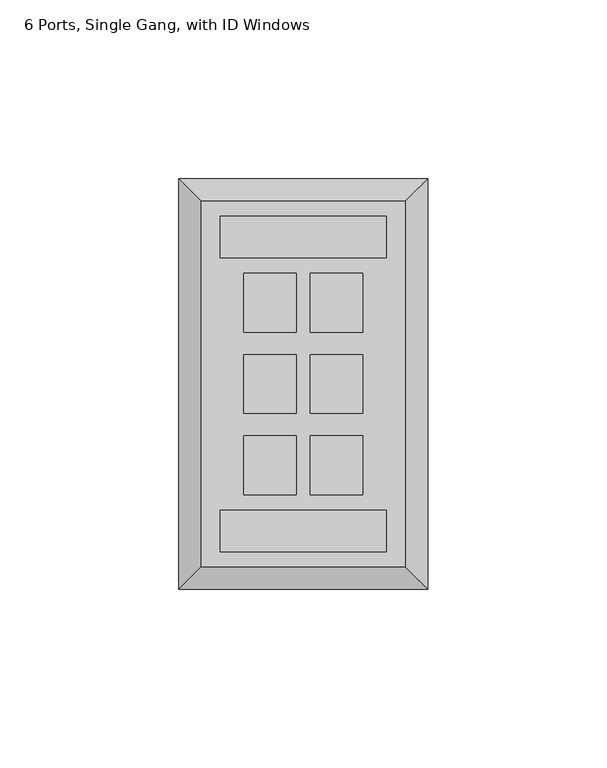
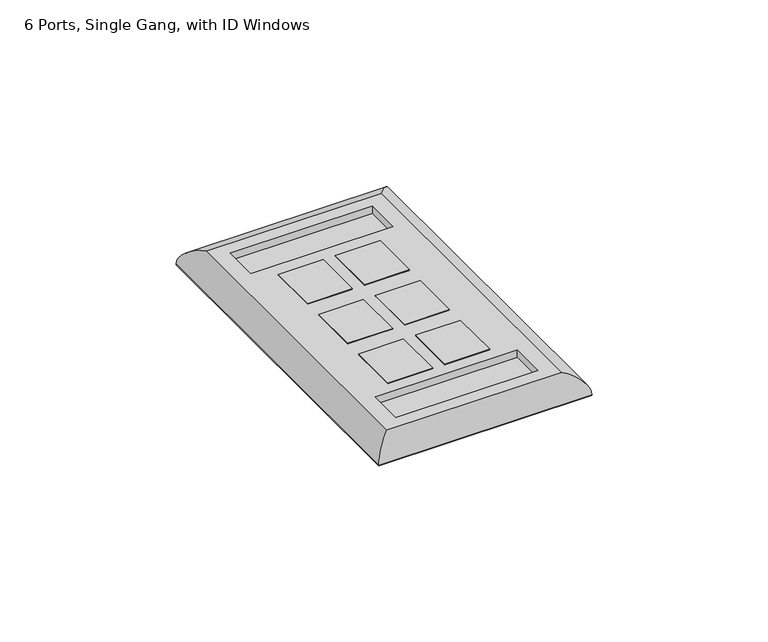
"""IFC4 building model written with IfcOpenShell, lengths in millimetres: electric appliance geometry, Data_Device-Work_Area-Leviton-QuickPort-Wallplate : 6 Ports, Single Gang, with ID Windows."""

from ifc_helpers import new_model, si_unit, frame, origin, origin_with_axes, place, context, project, spatial, polyline, ellipse_curve, outline, extrude, source, transform, mapped, element, save
from ifc_brep_helpers import plane_surface, cylinder_surface, advanced_brep


def electric_appliance_6_ports_single_gang_with_id_windows_9878a6a8(model_context):
    return source(origin(), model_context, "Body", "SolidModel", [
        extrude(outline(polyline([(-24.9936, 16.4465), (-24.9936, -0.0635), (-39.7256, -0.0635), (-39.7256, 16.4465), (-24.9936, 16.4465)])), origin_with_axes(), (0.0, 0.0, 1.0), 6.35),
        extrude(outline(polyline([(-24.9936, 39.1795), (-24.9936, 22.6695), (-39.7256, 22.6695), (-39.7256, 39.1795), (-24.9936, 39.1795)])), origin_with_axes(), (0.0, 0.0, 1.0), 6.35),
        extrude(outline(polyline([(-24.9936, -6.2865), (-24.9936, -22.7965), (-39.7256, -22.7965), (-39.7256, -6.2865), (-24.9936, -6.2865)])), origin_with_axes(), (0.0, 0.0, 1.0), 6.35),
        extrude(outline(polyline([(-6.3246, 16.4465), (-6.3246, -0.0635), (-21.0566, -0.0635), (-21.0566, 16.4465), (-6.3246, 16.4465)])), origin_with_axes(), (0.0, 0.0, 1.0), 6.35),
        extrude(outline(polyline([(-6.3246, 39.1795), (-6.3246, 22.6695), (-21.0566, 22.6695), (-21.0566, 39.1795), (-6.3246, 39.1795)])), origin_with_axes(), (0.0, 0.0, 1.0), 6.35),
        extrude(outline(polyline([(-6.3246, -6.2865), (-6.3246, -22.7965), (-21.0566, -22.7965), (-21.0566, -6.2865), (-6.3246, -6.2865)])), origin_with_axes(), (0.0, 0.0, 1.0), 6.35),
        advanced_brep(
        [(5.5499, -42.9895, 6.35), (5.5499, 59.3725, 6.35), (-51.6001, 59.3725, 6.35), (-51.6001, -42.9895, 6.35), (-39.7256, 39.1795, 6.35), (-24.9936, 39.1795, 6.35), (-24.9936, 22.6695, 6.35), (-39.7256, 22.6695, 6.35), (-39.7256, 16.4465, 6.35), (-24.9936, 16.4465, 6.35), (-24.9936, -0.0635, 6.35), (-39.7256, -0.0635, 6.35), (-39.7256, -6.2865, 6.35), (-24.9936, -6.2865, 6.35), (-24.9936, -22.7965, 6.35), (-39.7256, -22.7965, 6.35), (-21.0566, 39.1795, 6.35), (-6.3246, 39.1795, 6.35), (-6.3246, 22.6695, 6.35), (-21.0566, 22.6695, 6.35), (-21.0566, 16.4465, 6.35), (-6.3246, 16.4465, 6.35), (-6.3246, -0.0635, 6.35), (-21.0566, -0.0635, 6.35), (-21.0566, -6.2865, 6.35), (-6.3246, -6.2865, 6.35), (-6.3246, -22.7965, 6.35), (-21.0566, -22.7965, 6.35), (-46.2661, 55.1815, 6.35), (0.2159, 55.1815, 6.35), (0.2159, 43.4975, 6.35), (-46.2661, 43.4975, 6.35), (0.2159, -27.1145, 6.35), (0.2159, -38.7985, 6.35), (-46.2661, -38.7985, 6.35), (-46.2661, -27.1145, 6.35), (11.8999, 65.7225, 0.0), (11.8999, -49.3395, 0.0), (-57.9501, -49.3395, 0.0), (-57.9501, 65.7225, 0.0), (-24.9936, 39.1795, 0.0), (-39.7256, 39.1795, 0.0), (-39.7256, 22.6695, 0.0), (-24.9936, 22.6695, 0.0), (-24.9936, 16.4465, 0.0), (-39.7256, 16.4465, 0.0), (-39.7256, -0.0635, 0.0), (-24.9936, -0.0635, 0.0), (-24.9936, -6.2865, 0.0), (-39.7256, -6.2865, 0.0), (-39.7256, -22.7965, 0.0), (-24.9936, -22.7965, 0.0), (-6.3246, 39.1795, 0.0), (-21.0566, 39.1795, 0.0), (-21.0566, 22.6695, 0.0), (-6.3246, 22.6695, 0.0), (-6.3246, 16.4465, 0.0), (-21.0566, 16.4465, 0.0), (-21.0566, -0.0635, 0.0), (-6.3246, -0.0635, 0.0), (-6.3246, -6.2865, 0.0), (-21.0566, -6.2865, 0.0), (-21.0566, -22.7965, 0.0), (-6.3246, -22.7965, 0.0), (-57.9501, 65.7225, 0.254), (11.8999, 65.7225, 0.254), (-57.9501, -49.3395, 0.254), (11.8999, -49.3395, 0.254), (0.2159, 55.1815, 3.81), (-46.2661, 55.1815, 3.81), (-46.2661, 43.4975, 3.81), (0.2159, 43.4975, 3.81), (0.2159, -38.7985, 3.81), (0.2159, -27.1145, 3.81), (-46.2661, -27.1145, 3.81), (-46.2661, -38.7985, 3.81)],
        [
            (0, 1),
            (1, 2),
            (2, 3),
            (3, 0),
            (4, 5),
            (5, 6),
            (6, 7),
            (7, 4),
            (8, 9),
            (9, 10),
            (10, 11),
            (11, 8),
            (12, 13),
            (13, 14),
            (14, 15),
            (15, 12),
            (16, 17),
            (17, 18),
            (18, 19),
            (19, 16),
            (20, 21),
            (21, 22),
            (22, 23),
            (23, 20),
            (24, 25),
            (25, 26),
            (26, 27),
            (27, 24),
            (28, 29),
            (29, 30),
            (30, 31),
            (31, 28),
            (32, 33),
            (33, 34),
            (34, 35),
            (35, 32),
            (36, 37),
            (37, 38),
            (38, 39),
            (39, 36),
            (40, 41),
            (41, 42),
            (42, 43),
            (43, 40),
            (44, 45),
            (45, 46),
            (46, 47),
            (47, 44),
            (48, 49),
            (49, 50),
            (50, 51),
            (51, 48),
            (52, 53),
            (53, 54),
            (54, 55),
            (55, 52),
            (56, 57),
            (57, 58),
            (58, 59),
            (59, 56),
            (60, 61),
            (61, 62),
            (62, 63),
            (63, 60),
            (39, 64),
            (64, 65),
            (65, 36),
            (38, 66),
            (66, 64),
            (37, 67),
            (67, 66),
            (65, 67),
            (4, 41),
            (40, 5),
            (7, 42),
            (6, 43),
            (8, 45),
            (44, 9),
            (11, 46),
            (10, 47),
            (12, 49),
            (48, 13),
            (15, 50),
            (14, 51),
            (16, 53),
            (52, 17),
            (19, 54),
            (18, 55),
            (20, 57),
            (56, 21),
            (23, 58),
            (22, 59),
            (24, 61),
            (60, 25),
            (27, 62),
            (26, 63),
            (68, 69),
            (69, 70),
            (70, 71),
            (71, 68),
            (72, 73),
            (73, 74),
            (74, 75),
            (75, 72),
            (68, 29),
            (28, 69),
            (31, 70),
            (30, 71),
            (72, 33),
            (32, 73),
            (35, 74),
            (34, 75),
            (0, 67, ellipse_curve(frame((5.5499, -42.9895, -0.0052917), z_axis=(0.7071067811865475, 0.7071067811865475, 0.0), x_axis=(0.7071067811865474, -0.7071067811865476, 0.0)), 8.9877397, 6.3552917)),
            (65, 1, ellipse_curve(frame((5.5499, 59.3725, -0.0052917), z_axis=(0.7071067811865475, -0.7071067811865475, 0.0), x_axis=(-0.7071067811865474, -0.7071067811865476, 0.0)), 8.9877397, 6.3552917)),
            (3, 66, ellipse_curve(frame((-51.6001, -42.9895, -0.0052917), z_axis=(0.7071067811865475, -0.7071067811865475, 0.0), x_axis=(-0.7071067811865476, -0.7071067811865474, 0.0)), 8.9877397, 6.3552917)),
            (2, 64, ellipse_curve(frame((-51.6001, 59.3725, -0.0052917), z_axis=(-0.7071067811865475, -0.7071067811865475, 0.0), x_axis=(-0.7071067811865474, 0.7071067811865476, 0.0)), 8.9877397, 6.3552917)),
        ],
        [
            plane_surface(frame((-57.9501, 65.7225, 6.35), z_axis=(0.0, 0.0, 1.0), x_axis=(-1.0, 0.0, 0.0))),
            plane_surface(frame((-57.9501, 65.7225, 0.0), z_axis=(0.0, 0.0, -1.0), x_axis=(1.0, 0.0, 0.0))),
            plane_surface(frame((11.8999, 65.7225, 6.35), z_axis=(0.0, 1.0, 0.0), x_axis=(0.0, 0.0, -1.0))),
            plane_surface(frame((-57.9501, 65.7225, 6.35), z_axis=(-1.0, 0.0, 0.0), x_axis=(0.0, 0.0, -1.0))),
            plane_surface(frame((-57.9501, -49.3395, 6.35), z_axis=(0.0, -1.0, 0.0), x_axis=(0.0, 0.0, -1.0))),
            plane_surface(frame((11.8999, -49.3395, 6.35), z_axis=(1.0, 0.0, 0.0), x_axis=(0.0, 0.0, -1.0))),
            plane_surface(frame((-24.9936, 39.1795, 6.35), z_axis=(0.0, -1.0, 0.0), x_axis=(0.0, 0.0, -1.0))),
            plane_surface(frame((-39.7256, 39.1795, 6.35), z_axis=(1.0, 0.0, 0.0), x_axis=(0.0, 0.0, -1.0))),
            plane_surface(frame((-39.7256, 22.6695, 6.35), z_axis=(0.0, 1.0, 0.0), x_axis=(0.0, 0.0, -1.0))),
            plane_surface(frame((-24.9936, 22.6695, 6.35), z_axis=(-1.0, 0.0, 0.0), x_axis=(0.0, 0.0, -1.0))),
            plane_surface(frame((-24.9936, 16.4465, 6.35), z_axis=(0.0, -1.0, 0.0), x_axis=(0.0, 0.0, -1.0))),
            plane_surface(frame((-39.7256, 16.4465, 6.35), z_axis=(1.0, 0.0, 0.0), x_axis=(0.0, 0.0, -1.0))),
            plane_surface(frame((-39.7256, -0.0635, 6.35), z_axis=(0.0, 1.0, 0.0), x_axis=(0.0, 0.0, -1.0))),
            plane_surface(frame((-24.9936, -0.0635, 6.35), z_axis=(-1.0, 0.0, 0.0), x_axis=(0.0, 0.0, -1.0))),
            plane_surface(frame((-24.9936, -6.2865, 6.35), z_axis=(0.0, -1.0, 0.0), x_axis=(0.0, 0.0, -1.0))),
            plane_surface(frame((-39.7256, -6.2865, 6.35), z_axis=(1.0, 0.0, 0.0), x_axis=(0.0, 0.0, -1.0))),
            plane_surface(frame((-39.7256, -22.7965, 6.35), z_axis=(0.0, 1.0, 0.0), x_axis=(0.0, 0.0, -1.0))),
            plane_surface(frame((-24.9936, -22.7965, 6.35), z_axis=(-1.0, 0.0, 0.0), x_axis=(0.0, 0.0, -1.0))),
            plane_surface(frame((-6.3246, 39.1795, 6.35), z_axis=(0.0, -1.0, 0.0), x_axis=(0.0, 0.0, -1.0))),
            plane_surface(frame((-21.0566, 39.1795, 6.35), z_axis=(1.0, 0.0, 0.0), x_axis=(0.0, 0.0, -1.0))),
            plane_surface(frame((-21.0566, 22.6695, 6.35), z_axis=(0.0, 1.0, 0.0), x_axis=(0.0, 0.0, -1.0))),
            plane_surface(frame((-6.3246, 22.6695, 6.35), z_axis=(-1.0, 0.0, 0.0), x_axis=(0.0, 0.0, -1.0))),
            plane_surface(frame((-6.3246, 16.4465, 6.35), z_axis=(0.0, -1.0, 0.0), x_axis=(0.0, 0.0, -1.0))),
            plane_surface(frame((-21.0566, 16.4465, 6.35), z_axis=(1.0, 0.0, 0.0), x_axis=(0.0, 0.0, -1.0))),
            plane_surface(frame((-21.0566, -0.0635, 6.35), z_axis=(0.0, 1.0, 0.0), x_axis=(0.0, 0.0, -1.0))),
            plane_surface(frame((-6.3246, -0.0635, 6.35), z_axis=(-1.0, 0.0, 0.0), x_axis=(0.0, 0.0, -1.0))),
            plane_surface(frame((-6.3246, -6.2865, 6.35), z_axis=(0.0, -1.0, 0.0), x_axis=(0.0, 0.0, -1.0))),
            plane_surface(frame((-21.0566, -6.2865, 6.35), z_axis=(1.0, 0.0, 0.0), x_axis=(0.0, 0.0, -1.0))),
            plane_surface(frame((-21.0566, -22.7965, 6.35), z_axis=(0.0, 1.0, 0.0), x_axis=(0.0, 0.0, -1.0))),
            plane_surface(frame((-6.3246, -22.7965, 6.35), z_axis=(-1.0, 0.0, 0.0), x_axis=(0.0, 0.0, -1.0))),
            plane_surface(frame((-46.2661, 55.1815, 3.81), z_axis=(0.0, 0.0, 1.0), x_axis=(1.0, 0.0, 0.0))),
            plane_surface(frame((0.2159, 55.1815, 6.35), z_axis=(0.0, -1.0, 0.0), x_axis=(0.0, 0.0, -1.0))),
            plane_surface(frame((-46.2661, 55.1815, 6.35), z_axis=(1.0, 0.0, 0.0), x_axis=(0.0, 0.0, -1.0))),
            plane_surface(frame((-46.2661, 43.4975, 6.35), z_axis=(0.0, 1.0, 0.0), x_axis=(0.0, 0.0, -1.0))),
            plane_surface(frame((0.2159, 43.4975, 6.35), z_axis=(-1.0, 0.0, 0.0), x_axis=(0.0, 0.0, -1.0))),
            plane_surface(frame((0.2159, -38.7985, 6.35), z_axis=(-1.0, 0.0, 0.0), x_axis=(0.0, 0.0, -1.0))),
            plane_surface(frame((0.2159, -27.1145, 6.35), z_axis=(0.0, -1.0, 0.0), x_axis=(0.0, 0.0, -1.0))),
            plane_surface(frame((-46.2661, -27.1145, 6.35), z_axis=(1.0, 0.0, 0.0), x_axis=(0.0, 0.0, -1.0))),
            plane_surface(frame((-46.2661, -38.7985, 6.35), z_axis=(0.0, 1.0, 0.0), x_axis=(0.0, 0.0, -1.0))),
            cylinder_surface(frame((5.5499, 65.7225, -0.0052917), z_axis=(0.0, -1.0, 0.0), x_axis=(1.0, 0.0, 0.0)), 6.3552917),
            cylinder_surface(frame((11.8999, -42.9895, -0.0052917), z_axis=(-1.0, 0.0, 0.0), x_axis=(0.0, -1.0, 0.0)), 6.3552917),
            cylinder_surface(frame((-51.6001, -49.3395, -0.0052917), z_axis=(0.0, 1.0, 0.0), x_axis=(-1.0, 0.0, 0.0)), 6.3552917),
            cylinder_surface(frame((-57.9501, 59.3725, -0.0052917), z_axis=(1.0, 0.0, 0.0), x_axis=(0.0, 1.0, 0.0)), 6.3552917),
        ],
        [
            (0, [[1, 2, 3, 4], [5, 6, 7, 8], [9, 10, 11, 12], [13, 14, 15, 16], [17, 18, 19, 20], [21, 22, 23, 24], [25, 26, 27, 28], [29, 30, 31, 32], [33, 34, 35, 36]]),
            (1, [[37, 38, 39, 40], [41, 42, 43, 44], [45, 46, 47, 48], [49, 50, 51, 52], [53, 54, 55, 56], [57, 58, 59, 60], [61, 62, 63, 64]]),
            (2, [[-40, 65, 66, 67]]),
            (3, [[-39, 68, 69, -65]]),
            (4, [[-38, 70, 71, -68]]),
            (5, [[-37, -67, 72, -70]]),
            (6, [[73, -41, 74, -5]]),
            (7, [[-73, -8, 75, -42]]),
            (8, [[-75, -7, 76, -43]]),
            (9, [[-74, -44, -76, -6]]),
            (10, [[77, -45, 78, -9]]),
            (11, [[-77, -12, 79, -46]]),
            (12, [[-79, -11, 80, -47]]),
            (13, [[-78, -48, -80, -10]]),
            (14, [[81, -49, 82, -13]]),
            (15, [[-81, -16, 83, -50]]),
            (16, [[-83, -15, 84, -51]]),
            (17, [[-82, -52, -84, -14]]),
            (18, [[85, -53, 86, -17]]),
            (19, [[-85, -20, 87, -54]]),
            (20, [[-87, -19, 88, -55]]),
            (21, [[-86, -56, -88, -18]]),
            (22, [[89, -57, 90, -21]]),
            (23, [[-89, -24, 91, -58]]),
            (24, [[-91, -23, 92, -59]]),
            (25, [[-90, -60, -92, -22]]),
            (26, [[93, -61, 94, -25]]),
            (27, [[-93, -28, 95, -62]]),
            (28, [[-95, -27, 96, -63]]),
            (29, [[-94, -64, -96, -26]]),
            (30, [[97, 98, 99, 100]]),
            (30, [[101, 102, 103, 104]]),
            (31, [[-97, 105, -29, 106]]),
            (32, [[-98, -106, -32, 107]]),
            (33, [[-99, -107, -31, 108]]),
            (34, [[-100, -108, -30, -105]]),
            (35, [[-101, 109, -33, 110]]),
            (36, [[-102, -110, -36, 111]]),
            (37, [[-103, -111, -35, 112]]),
            (38, [[-104, -112, -34, -109]]),
            (39, [[113, -72, 114, -1]]),
            (40, [[-113, -4, 115, -71]]),
            (41, [[-115, -3, 116, -69]]),
            (42, [[-114, -66, -116, -2]]),
        ],
    ),
        extrude(outline(polyline([(11.6459, 65.4685), (11.6459, -49.0855), (-57.6961, -49.0855), (-57.6961, 65.4685), (11.6459, 65.4685)]), holes=[polyline([(-24.9936, 39.1795), (-39.7256, 39.1795), (-39.7256, 22.6695), (-24.9936, 22.6695), (-24.9936, 39.1795)]), polyline([(-24.9936, 16.4465), (-39.7256, 16.4465), (-39.7256, -0.0635), (-24.9936, -0.0635), (-24.9936, 16.4465)]), polyline([(-24.9936, -6.2865), (-39.7256, -6.2865), (-39.7256, -22.7965), (-24.9936, -22.7965), (-24.9936, -6.2865)]), polyline([(-6.3246, 39.1795), (-21.0566, 39.1795), (-21.0566, 22.6695), (-6.3246, 22.6695), (-6.3246, 39.1795)]), polyline([(-6.3246, 16.4465), (-21.0566, 16.4465), (-21.0566, -0.0635), (-6.3246, -0.0635), (-6.3246, 16.4465)]), polyline([(-6.3246, -6.2865), (-21.0566, -6.2865), (-21.0566, -22.7965), (-6.3246, -22.7965), (-6.3246, -6.2865)])]), origin_with_axes(), (0.0, 0.0, 1.0), 0.254),
    ])


if __name__ == "__main__":
    model = new_model("IFC4")
    model_context = context("Model", 3, world=origin())
    ifc_project = project(units=[si_unit("LENGTHUNIT", "METRE", prefix="MILLI")], contexts=[model_context])
    site = spatial("IfcSite", under=ifc_project)
    building = spatial("IfcBuilding", under=site)
    placement = place(None, origin())
    electric_appliance_6_ports_single_gang_with_id_windows_shape = electric_appliance_6_ports_single_gang_with_id_windows_9878a6a8(model_context)
    element("IfcElectricAppliance", 1, ObjectType="Data_Device-Work_Area-Leviton-QuickPort-Wallplate : 6 Ports, Single Gang, with ID Windows", at=placement, inside=building, context=model_context, shape_type="MappedRepresentation", body=[
        mapped(electric_appliance_6_ports_single_gang_with_id_windows_shape, transform((0.0, 0.0, 0.0), x_axis=(1.0, 0.0, 0.0), y_axis=(0.0, 1.0, 0.0), z_axis=(0.0, 0.0, 1.0))),
    ])
    save(model, "model.ifc")
